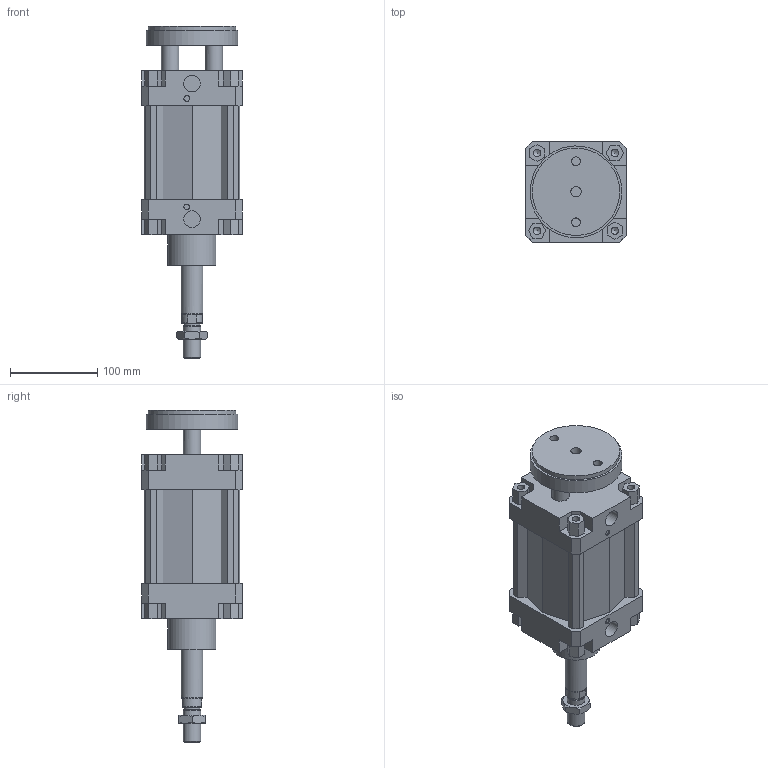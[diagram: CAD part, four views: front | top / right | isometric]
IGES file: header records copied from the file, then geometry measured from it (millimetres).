
Global section: file name: 132#_100_0050_02; native system: Autodesk Inventor 2014; preprocessor: unknown; author: A. Manieri; date: 20161006.163624; units: millimetre
Bounding box: 115 x 115 x 380 mm (x, y, z)
Volume: 2055370.8 mm3; surface area: 285124.7 mm2
Topology: 3 solids, 3 shells, 220 faces, 589 edges, 397 vertices
Faces by surface type: bspline 220
